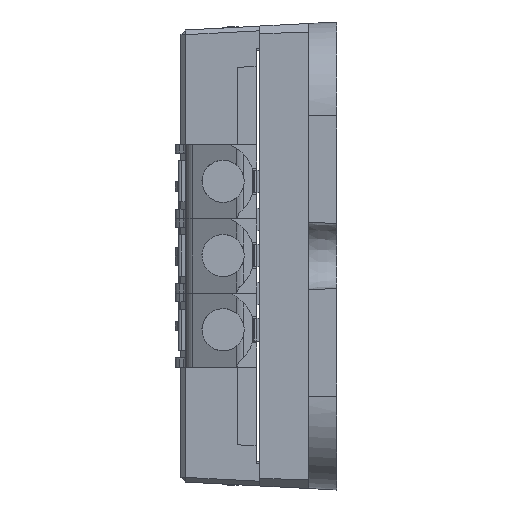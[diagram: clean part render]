
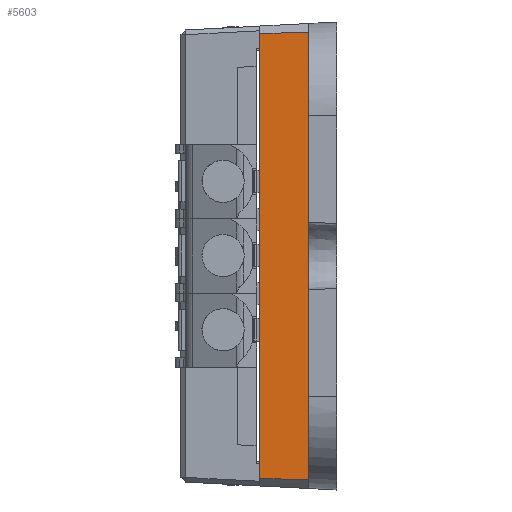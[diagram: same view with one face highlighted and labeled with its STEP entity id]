
A CAD part, left-side view. The second image highlights one B-rep face of the part: STEP entity #5603.
In plain terms, the highlighted planar face has unit normal (-0.999, 0.052, 0).
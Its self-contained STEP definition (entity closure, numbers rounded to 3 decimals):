
#239=FACE_OUTER_BOUND('',#528,.T.);
#528=EDGE_LOOP('',(#3999,#4000,#4001,#4002));
#1024=LINE('',#8322,#1769);
#1028=LINE('',#8331,#1773);
#1029=LINE('',#8332,#1774);
#1030=LINE('',#8333,#1775);
#1769=VECTOR('',#6613,1000.);
#1773=VECTOR('',#6623,1000.);
#1774=VECTOR('',#6624,1000.);
#1775=VECTOR('',#6625,1000.);
#2463=VERTEX_POINT('',#8319);
#2464=VERTEX_POINT('',#8321);
#2465=VERTEX_POINT('',#8329);
#2466=VERTEX_POINT('',#8330);
#3074=EDGE_CURVE('',#2464,#2463,#1024,.T.);
#3078=EDGE_CURVE('',#2465,#2466,#1028,.T.);
#3079=EDGE_CURVE('',#2466,#2464,#1029,.T.);
#3080=EDGE_CURVE('',#2463,#2465,#1030,.T.);
#3999=ORIENTED_EDGE('',*,*,#3078,.T.);
#4000=ORIENTED_EDGE('',*,*,#3079,.T.);
#4001=ORIENTED_EDGE('',*,*,#3074,.T.);
#4002=ORIENTED_EDGE('',*,*,#3080,.T.);
#5350=PLANE('',#5947);
#5603=ADVANCED_FACE('',(#239),#5350,.T.);
#5947=AXIS2_PLACEMENT_3D('',#8328,#6621,#6622);
#6613=DIRECTION('',(0.,0.,1.));
#6621=DIRECTION('center_axis',(-0.999,0.052,0.));
#6622=DIRECTION('ref_axis',(-0.052,-0.999,0.));
#6623=DIRECTION('',(0.,0.,-1.));
#6624=DIRECTION('',(-0.052,-0.998,-0.022));
#6625=DIRECTION('',(0.052,0.998,-0.022));
#8319=CARTESIAN_POINT('',(-33.948,1.5,11.897));
#8321=CARTESIAN_POINT('',(-33.948,1.5,-11.897));
#8322=CARTESIAN_POINT('',(-33.948,1.5,0.));
#8328=CARTESIAN_POINT('Origin',(-33.948,1.5,0.));
#8329=CARTESIAN_POINT('',(-33.811,4.1,11.84));
#8330=CARTESIAN_POINT('',(-33.811,4.1,-11.841));
#8331=CARTESIAN_POINT('',(-33.811,4.1,0.));
#8332=CARTESIAN_POINT('',(-33.934,1.758,-11.892));
#8333=CARTESIAN_POINT('',(-33.934,1.757,11.891));
